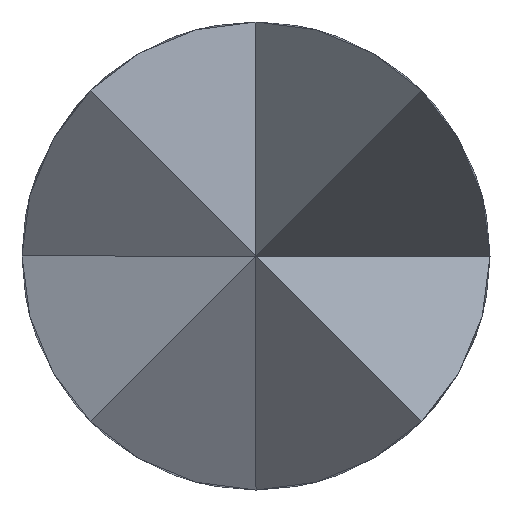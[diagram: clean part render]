
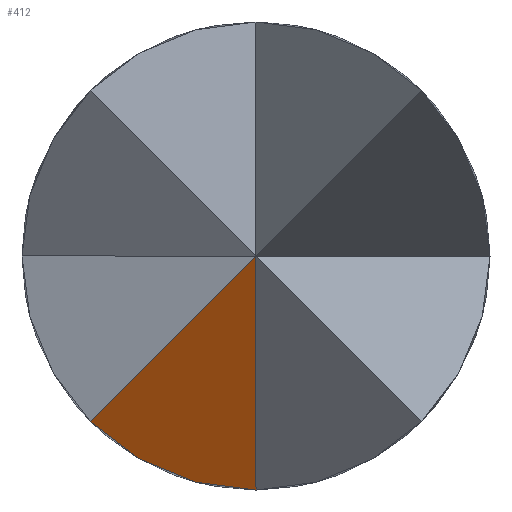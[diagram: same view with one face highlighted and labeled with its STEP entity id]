
A CAD part, left-side view. The second image highlights one B-rep face of the part: STEP entity #412.
In plain terms, the highlighted planar face has unit normal (-0.406, -0.819, -0.406).
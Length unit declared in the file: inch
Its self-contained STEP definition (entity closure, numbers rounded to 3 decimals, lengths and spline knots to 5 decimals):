
#44 = PLANE ( 'NONE',  #643 ) ;
#46 = CARTESIAN_POINT ( 'NONE',  ( 0., 0.01237, -0.01237 ) ) ;
#63 = DIRECTION ( 'NONE',  ( 0.406, 0.819, 0.406 ) ) ;
#166 = EDGE_LOOP ( 'NONE', ( #1052, #1132, #458 ) ) ;
#265 = EDGE_CURVE ( 'NONE', #679, #728, #634, .T. ) ;
#314 = LINE ( 'NONE', #1053, #966 ) ;
#337 = CARTESIAN_POINT ( 'NONE',  ( 0.03012, 0., -0.0175 ) ) ;
#343 = CARTESIAN_POINT ( 'NONE',  ( 0., 0.01237, -0.01237 ) ) ;
#346 = VECTOR ( 'NONE', #1093, 39.37008 ) ;
#412 = ADVANCED_FACE ( 'NONE', ( #921 ), #44, .F. ) ;
#458 = ORIENTED_EDGE ( 'NONE', *, *, #532, .F. ) ;
#513 =( BOUNDED_CURVE ( )  B_SPLINE_CURVE ( 3, ( #343, #1184, #825, #337 ),
 .UNSPECIFIED., .F., .T. ) 
 B_SPLINE_CURVE_WITH_KNOTS ( ( 4, 4 ),
 ( 1.24514, 2.03053 ),
 .UNSPECIFIED. ) 
 CURVE ( )  GEOMETRIC_REPRESENTATION_ITEM ( )  RATIONAL_B_SPLINE_CURVE ( ( 1., 0.949, 0.949, 1. ) ) 
 REPRESENTATION_ITEM ( '' )  );
#532 = EDGE_CURVE ( 'NONE', #728, #894, #314, .T. ) ;
#561 = CARTESIAN_POINT ( 'NONE',  ( 0.03012, 0., -0.0175 ) ) ;
#634 = LINE ( 'NONE', #46, #346 ) ;
#643 = AXIS2_PLACEMENT_3D ( 'NONE', #1089, #63, #657 ) ;
#657 = DIRECTION ( 'NONE',  ( 0., -0.444, 0.896 ) ) ;
#679 = VERTEX_POINT ( 'NONE', #750 ) ;
#728 = VERTEX_POINT ( 'NONE', #899 ) ;
#750 = CARTESIAN_POINT ( 'NONE',  ( 0., 0.01237, -0.01237 ) ) ;
#825 = CARTESIAN_POINT ( 'NONE',  ( 0.02062, 0.0047, -0.0175 ) ) ;
#860 = EDGE_CURVE ( 'NONE', #679, #894, #513, .T. ) ;
#894 = VERTEX_POINT ( 'NONE', #561 ) ;
#899 = CARTESIAN_POINT ( 'NONE',  ( 0.01262, 0., 0. ) ) ;
#921 = FACE_OUTER_BOUND ( 'NONE', #166, .T. ) ;
#966 = VECTOR ( 'NONE', #1064, 39.37008 ) ;
#1052 = ORIENTED_EDGE ( 'NONE', *, *, #265, .F. ) ;
#1053 = CARTESIAN_POINT ( 'NONE',  ( 0.01262, 0., 0. ) ) ;
#1064 = DIRECTION ( 'NONE',  ( 0.707, 0., -0.707 ) ) ;
#1089 = CARTESIAN_POINT ( 'NONE',  ( -0.00018, 0.0129, -0.01326 ) ) ;
#1093 = DIRECTION ( 'NONE',  ( 0.585, -0.574, 0.574 ) ) ;
#1132 = ORIENTED_EDGE ( 'NONE', *, *, #860, .T. ) ;
#1184 = CARTESIAN_POINT ( 'NONE',  ( 0.01004, 0.00905, -0.0157 ) ) ;
